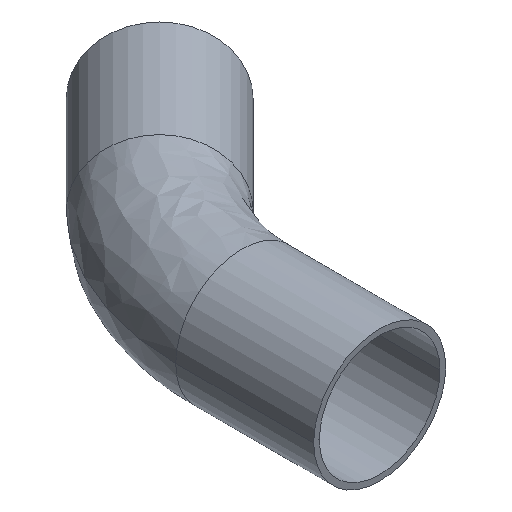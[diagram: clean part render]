
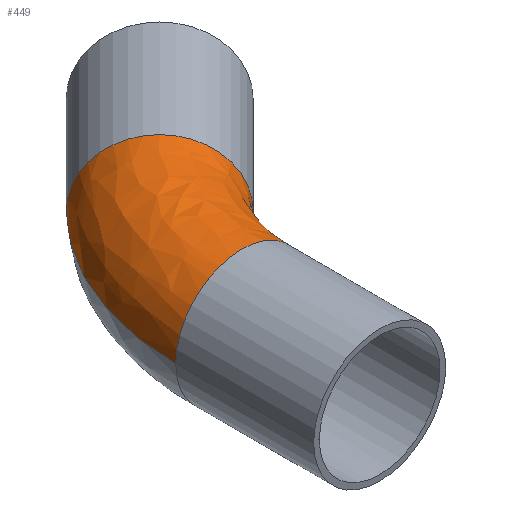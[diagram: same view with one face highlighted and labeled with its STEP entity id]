
A CAD part, isometric view. The second image highlights one B-rep face of the part: STEP entity #449.
In plain terms, the highlighted free-form (B-spline) face has degree [3, 3] with [4, 4] control points.
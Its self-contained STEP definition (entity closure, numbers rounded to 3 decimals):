
#5 = DIRECTION ( 'NONE',  ( 0., 1., 0. ) ) ;
#17 = CARTESIAN_POINT ( 'NONE',  ( 19.05, 50.06, 38.1 ) ) ;
#20 = FACE_OUTER_BOUND ( 'NONE', #269, .T. ) ;
#25 = VERTEX_POINT ( 'NONE', #463 ) ;
#31 = CIRCLE ( 'NONE', #71, 38.15 ) ;
#37 =( BOUNDED_SURFACE ( )  B_SPLINE_SURFACE ( 3, 3, ( 
 ( #86, #330, #336, #290 ),
 ( #273, #252, #235, #250 ),
 ( #207, #17, #231, #307 ),
 ( #126, #152, #130, #199 ) ),
 .UNSPECIFIED., .F., .F., .F. ) 
 B_SPLINE_SURFACE_WITH_KNOTS ( ( 4, 4 ),
 ( 4, 4 ),
 ( 0., 1. ),
 ( 0., 1. ),
 .UNSPECIFIED. ) 
 GEOMETRIC_REPRESENTATION_ITEM ( )  RATIONAL_B_SPLINE_SURFACE ( (
 ( 1., 0.949, 0.949, 1.),
 ( 0.333, 0.316, 0.316, 0.333),
 ( 0.333, 0.316, 0.316, 0.333),
 ( 1., 0.949, 0.949, 1.) ) ) 
 REPRESENTATION_ITEM ( '' )  SURFACE ( )  );
#39 = ORIENTED_EDGE ( 'NONE', *, *, #385, .T. ) ;
#52 = CIRCLE ( 'NONE', #283, 19.05 ) ;
#71 = AXIS2_PLACEMENT_3D ( 'NONE', #453, #87, #448 ) ;
#86 = CARTESIAN_POINT ( 'NONE',  ( -19.05, 39.807, 0. ) ) ;
#87 = DIRECTION ( 'NONE',  ( 0., 0., -1. ) ) ;
#105 = AXIS2_PLACEMENT_3D ( 'NONE', #108, #118, #125 ) ;
#107 = EDGE_CURVE ( 'NONE', #271, #258, #31, .T. ) ;
#108 = CARTESIAN_POINT ( 'NONE',  ( 57.2, 39.807, 0. ) ) ;
#112 = AXIS2_PLACEMENT_3D ( 'NONE', #268, #5, #160 ) ;
#118 = DIRECTION ( 'NONE',  ( 0., 0., -1. ) ) ;
#125 = DIRECTION ( 'NONE',  ( -1., 0., 0. ) ) ;
#126 = CARTESIAN_POINT ( 'NONE',  ( 19.05, 39.807, 0. ) ) ;
#130 = CARTESIAN_POINT ( 'NONE',  ( 22.974, 59.533, 0. ) ) ;
#138 = ORIENTED_EDGE ( 'NONE', *, *, #107, .T. ) ;
#148 = VERTEX_POINT ( 'NONE', #190 ) ;
#152 = CARTESIAN_POINT ( 'NONE',  ( 19.05, 50.06, 0. ) ) ;
#156 = EDGE_CURVE ( 'NONE', #148, #25, #205, .T. ) ;
#157 = DIRECTION ( 'NONE',  ( -0.707, -0.707, 0. ) ) ;
#159 = DIRECTION ( 'NONE',  ( -0.707, 0.707, 0. ) ) ;
#160 = DIRECTION ( 'NONE',  ( -1., 0., 0. ) ) ;
#164 = ORIENTED_EDGE ( 'NONE', *, *, #284, .T. ) ;
#190 = CARTESIAN_POINT ( 'NONE',  ( -19.05, 39.807, 0. ) ) ;
#193 = CARTESIAN_POINT ( 'NONE',  ( 19.05, 39.807, 0. ) ) ;
#199 = CARTESIAN_POINT ( 'NONE',  ( 30.224, 66.783, 0. ) ) ;
#205 = CIRCLE ( 'NONE', #105, 76.25 ) ;
#207 = CARTESIAN_POINT ( 'NONE',  ( 19.05, 39.807, 38.1 ) ) ;
#231 = CARTESIAN_POINT ( 'NONE',  ( 22.974, 59.533, 38.1 ) ) ;
#235 = CARTESIAN_POINT ( 'NONE',  ( -11.208, 79.233, 38.1 ) ) ;
#250 = CARTESIAN_POINT ( 'NONE',  ( 3.283, 93.724, 38.1 ) ) ;
#252 = CARTESIAN_POINT ( 'NONE',  ( -19.05, 60.3, 38.1 ) ) ;
#258 = VERTEX_POINT ( 'NONE', #362 ) ;
#260 = ORIENTED_EDGE ( 'NONE', *, *, #156, .F. ) ;
#268 = CARTESIAN_POINT ( 'NONE',  ( 0., 39.807, 0. ) ) ;
#269 = EDGE_LOOP ( 'NONE', ( #39, #138, #164, #260 ) ) ;
#271 = VERTEX_POINT ( 'NONE', #193 ) ;
#273 = CARTESIAN_POINT ( 'NONE',  ( -19.05, 39.807, 38.1 ) ) ;
#283 = AXIS2_PLACEMENT_3D ( 'NONE', #341, #157, #159 ) ;
#284 = EDGE_CURVE ( 'NONE', #258, #25, #52, .T. ) ;
#290 = CARTESIAN_POINT ( 'NONE',  ( 3.283, 93.724, 0. ) ) ;
#307 = CARTESIAN_POINT ( 'NONE',  ( 30.224, 66.783, 38.1 ) ) ;
#330 = CARTESIAN_POINT ( 'NONE',  ( -19.05, 60.3, 0. ) ) ;
#336 = CARTESIAN_POINT ( 'NONE',  ( -11.208, 79.233, 0. ) ) ;
#341 = CARTESIAN_POINT ( 'NONE',  ( 16.753, 80.253, 0. ) ) ;
#362 = CARTESIAN_POINT ( 'NONE',  ( 30.224, 66.783, 0. ) ) ;
#385 = EDGE_CURVE ( 'NONE', #148, #271, #391, .T. ) ;
#391 = CIRCLE ( 'NONE', #112, 19.05 ) ;
#448 = DIRECTION ( 'NONE',  ( -1., 0., 0. ) ) ;
#449 = ADVANCED_FACE ( 'NONE', ( #20 ), #37, .T. ) ;
#453 = CARTESIAN_POINT ( 'NONE',  ( 57.2, 39.807, 0. ) ) ;
#463 = CARTESIAN_POINT ( 'NONE',  ( 3.283, 93.724, 0. ) ) ;
